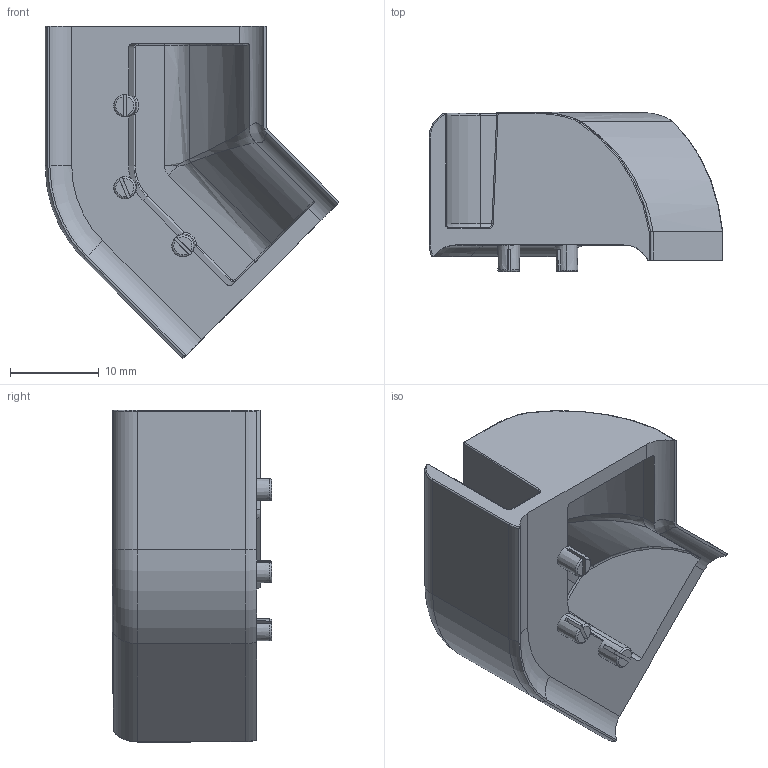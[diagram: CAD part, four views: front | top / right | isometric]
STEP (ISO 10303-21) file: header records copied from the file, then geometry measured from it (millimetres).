
FILE_DESCRIPTION (( 'STEP AP203' ), '1' );
FILE_NAME ('013.025.117.STEP', '2020-09-21T06:59:17', ( '' ), ( '' ), 'SwSTEP 2.0', 'SolidWorks 2018', '' );
FILE_SCHEMA (( 'CONFIG_CONTROL_DESIGN' ));
Length unit declared in the file: millimetre
Products named in the file (1): 013.025.117
Bounding box: 33.17 x 18 x 37.5 mm (x, y, z)
Volume: 4850.9 mm3; surface area: 5077.7 mm2
Topology: 1 solids, 1 shells, 161 faces, 409 edges, 246 vertices
Faces by surface type: cylinder 49, plane 40, torus 34, bspline 30, cone 8
Entity records: 6053 total; most frequent: CARTESIAN_POINT 2346, ORIENTED_EDGE 810, DIRECTION 724, EDGE_CURVE 405, AXIS2_PLACEMENT_3D 294, VERTEX_POINT 246, CIRCLE 162, FACE_OUTER_BOUND 161
